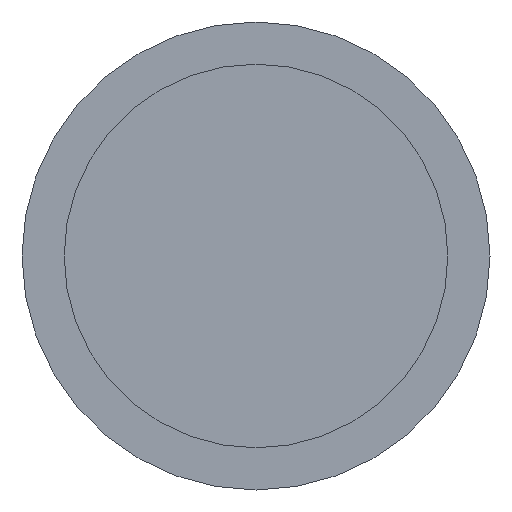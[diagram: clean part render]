
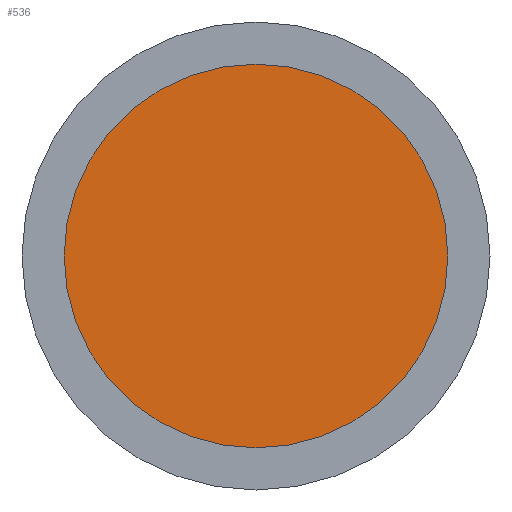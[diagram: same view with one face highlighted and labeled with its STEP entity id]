
A CAD part, front view. The second image highlights one B-rep face of the part: STEP entity #536.
In plain terms, the highlighted planar face has unit normal (0, -1, 0).
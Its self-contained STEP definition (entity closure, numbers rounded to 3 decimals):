
#1=CARTESIAN_POINT('',(0.,0.,0.));
#2=DIRECTION('',(0.,-1.,0.));
#3=DIRECTION('',(1.,0.,0.));
#4=AXIS2_PLACEMENT_3D('',#1,#2,#3);
#14=CARTESIAN_POINT('',(0.,0.,0.));
#15=DIRECTION('',(0.,1.,0.));
#16=DIRECTION('',(1.,0.,0.));
#17=AXIS2_PLACEMENT_3D('',#14,#15,#16);
#405=CARTESIAN_POINT('',(20.5,0.,0.));
#407=VERTEX_POINT('',#405);
#419=CARTESIAN_POINT('',(-20.5,0.,0.));
#421=VERTEX_POINT('',#419);
#525=CARTESIAN_POINT('',(0.,0.,0.));
#526=DIRECTION('',(0.,-1.,0.));
#527=DIRECTION('',(-1.,0.,0.));
#528=AXIS2_PLACEMENT_3D('',#525,#526,#527);
#529=PLANE('',#528);
#531=ORIENTED_EDGE('',*,*,#530,.F.);
#533=ORIENTED_EDGE('',*,*,#532,.T.);
#534=EDGE_LOOP('',(#531,#533));
#535=FACE_OUTER_BOUND('',#534,.F.);
#536=ADVANCED_FACE('',(#535),#529,.T.);
#5=CIRCLE('',#4,20.5);
#18=CIRCLE('',#17,20.5);
#530=EDGE_CURVE('',#407,#421,#5,.T.);
#532=EDGE_CURVE('',#407,#421,#18,.T.);
